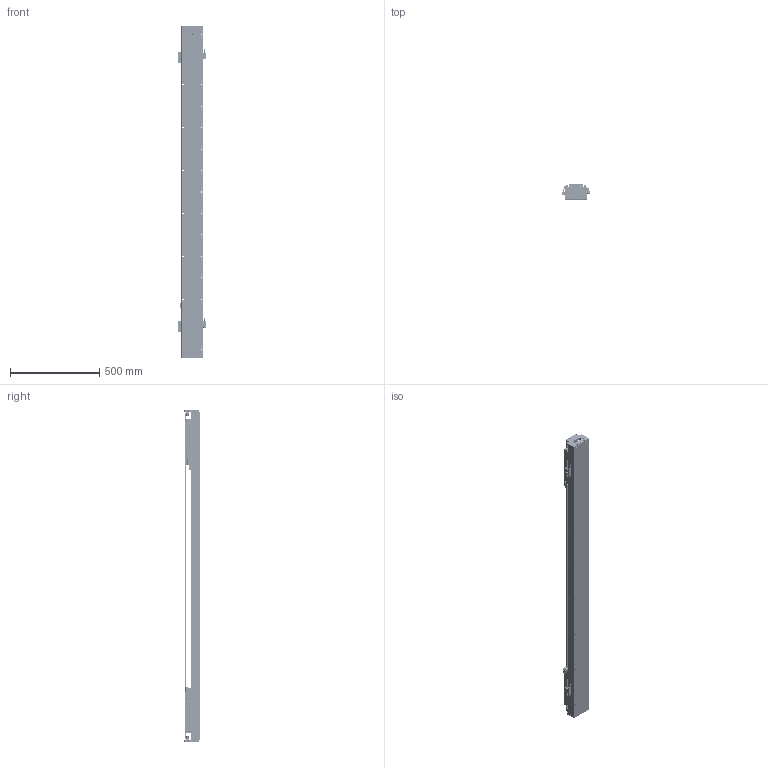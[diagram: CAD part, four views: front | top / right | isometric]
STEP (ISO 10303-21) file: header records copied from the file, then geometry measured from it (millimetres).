
FILE_DESCRIPTION (( 'STEP AP203' ), '1' );
FILE_NAME ('DKW120-2×B3-W060（T1220-L005-0.2）.STEP', '2021-09-28T08:19:22', ( '微软用户' ), ( '微软中国' ), 'SwSTEP 2.0', 'SolidWorks 2018', '' );
FILE_SCHEMA (( 'CONFIG_CONTROL_DESIGN' ));
Length unit declared in the file: millimetre
Products named in the file (22): DKW-DG-XJ-Z-00 笢潔滅袉砎蝶; BKMA01-W060-TRL280; 06652-0001-001-00 DKW120傷啣; DKW-GYP-ZJ-00 笢潔嫖萇覜茼え; RUS嫖掑喜; 06652-0001-004-00 DKW120嶺輸菜輸; DKW-KGZ-ZJ-00 中间光电开关支架; Ru2; DKW-HXJ-JY-00 遣喳砎蝶; DKW120-2×B3-W060（T1220-L005-0.2）; DKW119-RU-DTJ-00 RU2黍杅芛盓殤; 10940-0001-004-00 120詩湍裔啣; 10980-0001-003-00 嫖萇羲壽嘐隅釱; 砎蝶猾沭; DKW-SG-GYP-H-00 嫖萇覜茼え; 12160-0000-003-00 DKW120詩湍嶺輸; EE_SX674A; 12160-0000-004-00  DKW120詩湍揤輸; DKW120-B15-T300-DZ-00 菁釱; B3-W060_00; DKW120 单轴模组-拉钢带组件; MSB15-DG-U
Assembly tree (41 placements, depth 3):
  DKW120-2×B3-W060（T1220-L005-0.2）
    DKW120-B15-T300-DZ-00 菁釱
    MSB15-DG-U  x2
    DKW120 单轴模组-拉钢带组件
      06652-0001-001-00 DKW120傷啣  x2
      06652-0001-004-00 DKW120嶺輸菜輸  x4
      DKW-HXJ-JY-00 遣喳砎蝶  x4
      10940-0001-004-00 120詩湍裔啣
      砎蝶猾沭  x2
      12160-0000-003-00 DKW120詩湍嶺輸  x2
      12160-0000-004-00  DKW120詩湍揤輸  x2
    BKMA01-W060-TRL280
    RUS嫖掑喜
    Ru2  x2
    DKW119-RU-DTJ-00 RU2黍杅芛盓殤  x2
    10980-0001-003-00 嫖萇羲壽嘐隅釱  x2
    DKW-SG-GYP-H-00 嫖萇覜茼え  x2
    EE_SX674A  x5
    B3-W060_00  x2
    DKW-DG-XJ-Z-00 笢潔滅袉砎蝶
    DKW-GYP-ZJ-00 笢潔嫖萇覜茼え
    DKW-KGZ-ZJ-00 中间光电开关支架
Bounding box: 154.1 x 84 x 1856 mm (x, y, z)
Volume: 7501437.6 mm3; surface area: 2802977.7 mm2
Topology: 60 solids, 158 shells, 6524 faces, 17662 edges, 11363 vertices
Faces by surface type: plane 3570, cylinder 1940, cone 520, bspline 494
Entity records: 141150 total; most frequent: CARTESIAN_POINT 48450, ORIENTED_EDGE 19157, DIRECTION 17854, EDGE_CURVE 9619, VERTEX_POINT 6309, AXIS2_PLACEMENT_3D 5974, VECTOR 5906, LINE 5906
